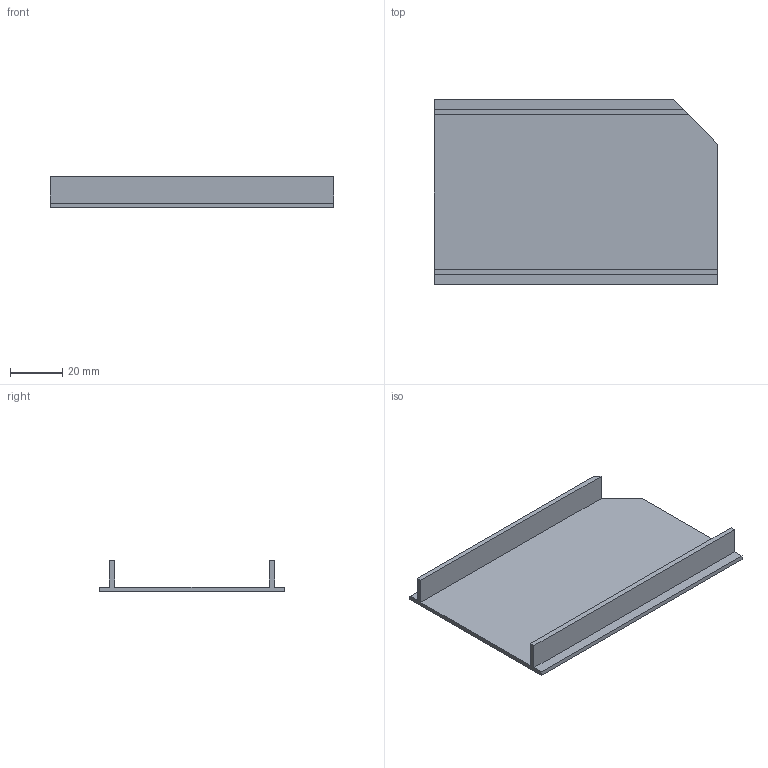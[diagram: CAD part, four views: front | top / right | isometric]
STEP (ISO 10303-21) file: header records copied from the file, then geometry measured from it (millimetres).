
FILE_DESCRIPTION(/* description */ ('Unknown'),/* implementation_level */ '2;1');
FILE_NAME(/* name */ 'cyberdeck_keyboard_placeholder',/* time_stamp */ '2026-04-21T20:10:16+02:00',/* author */ ('Unknown'),/* organization */ ('Unknown'),/* preprocessor_version */ 'ST-DEVELOPER v16.7',/* originating_system */ 'DEX',/* authorisation */ $);
FILE_SCHEMA (('AUTOMOTIVE_DESIGN {1 0 10303 214 3 1 1}'));
Length unit declared in the file: millimetre
Products named in the file (1): cyberdeck_keyboard_placeholder
Bounding box: 108.36 x 70.8 x 12 mm (x, y, z)
Volume: 17008 mm3; surface area: 19948.9 mm2
Topology: 1 solids, 1 shells, 15 faces, 39 edges, 26 vertices
Faces by surface type: plane 15
Entity records: 582 total; most frequent: CARTESIAN_POINT 81, ORIENTED_EDGE 78, DIRECTION 71, EDGE_CURVE 39, LINE 39, VECTOR 39, VERTEX_POINT 26, AXIS2_PLACEMENT_3D 16
